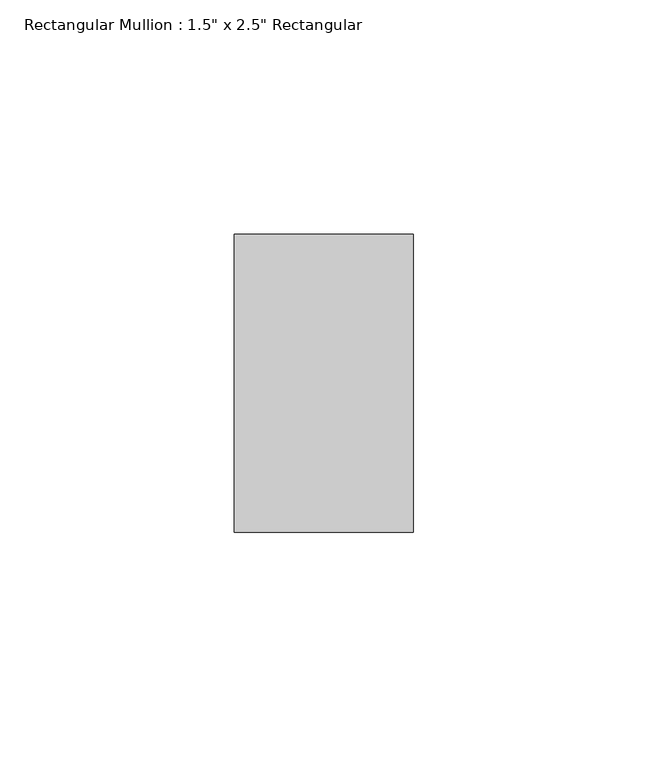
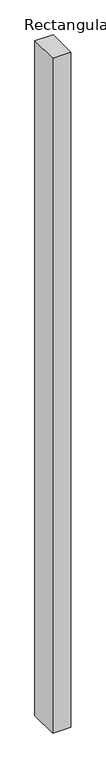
"""IFC4 building model written with IfcOpenShell, lengths in millimetres: member geometry."""

from ifc_helpers import new_model, si_unit, frame, origin, place, context, project, spatial, polyline, outline, extrude, source, transform, mapped, element, save


def member_6121af53(model_context):
    return source(origin(), model_context, "Body", "SweptSolid", [
        extrude(outline(polyline([(0.0, 31.75), (0.0, -31.75), (-38.1, -31.75), (-38.1, 31.75), (0.0, 31.75)])), frame((0.0, 0.0, -1485.9), z_axis=(0.0, 0.0, 1.0), x_axis=(1.0, 0.0, 0.0)), (0.0, 0.0, 1.0), 1485.9),
    ])


if __name__ == "__main__":
    model = new_model("IFC4")
    model_context = context("Model", 3, world=origin())
    ifc_project = project(units=[si_unit("LENGTHUNIT", "METRE", prefix="MILLI")], contexts=[model_context])
    site = spatial("IfcSite", under=ifc_project)
    building = spatial("IfcBuilding", under=site)
    placement = place(None, origin())
    member_shape = member_6121af53(model_context)
    element("IfcMember", 1, ObjectType="Rectangular Mullion : 1.5\" x 2.5\" Rectangular", at=placement, inside=building, context=model_context, shape_type="MappedRepresentation", body=[
        mapped(member_shape, transform((0.0, 0.0, 0.0), x_axis=(1.0, 0.0, 0.0), y_axis=(0.0, 1.0, 0.0), z_axis=(0.0, 0.0, 1.0))),
    ])
    save(model, "model.ifc")
